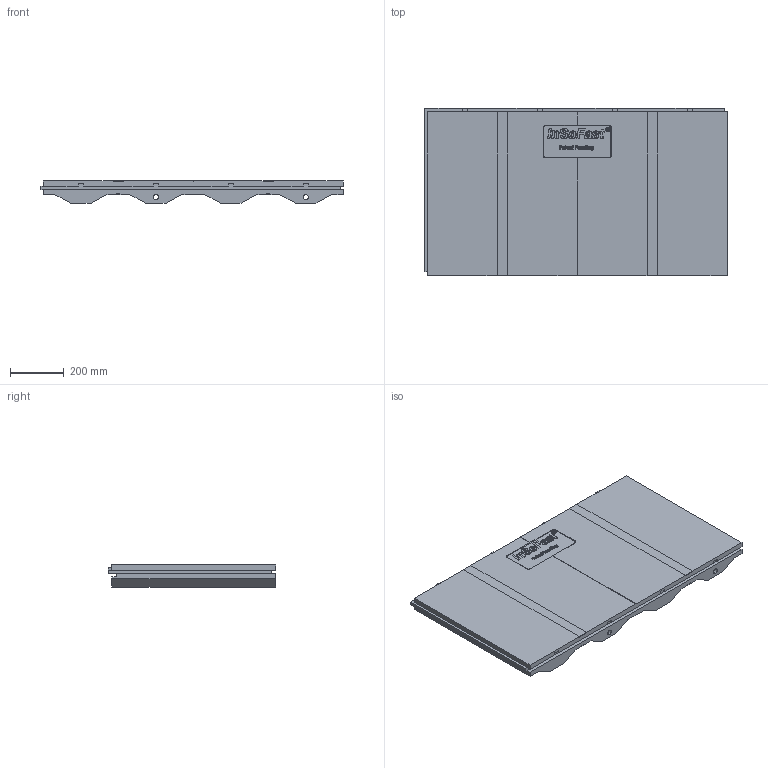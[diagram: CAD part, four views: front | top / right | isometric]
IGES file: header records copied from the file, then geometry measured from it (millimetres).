
Start section: SolidWorks IGES file using analytic representation for surfaces
Global section: file name: E:\Local CAD Details\CloudStation\Andys Working Files\Panels\Website files\CX\CX44 Website .IGS; native system: SolidWorks 2020; preprocessor: SolidWorks 2020; author: Andy; date: 200616.155501; units: inch
Bounding box: 1125.53 x 622.3 x 82.04 mm (x, y, z)
Surface area: 1955953.3 mm2 (no closed solid volume)
Topology: 0 solids, 0 shells, 454 faces, 6382 edges, 6382 vertices
Faces by surface type: bspline 439, revolution 15
